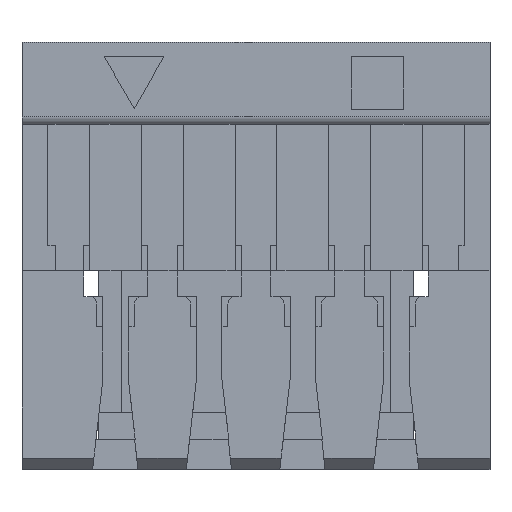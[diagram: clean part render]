
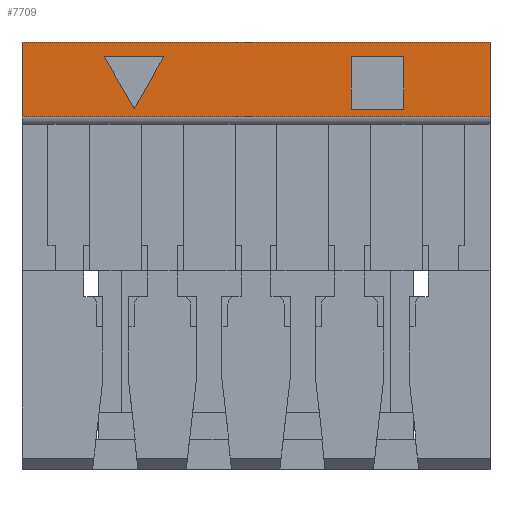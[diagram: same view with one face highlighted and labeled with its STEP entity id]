
A CAD part, top view. The second image highlights one B-rep face of the part: STEP entity #7709.
In plain terms, the highlighted planar face has unit normal (0, 0, 1).
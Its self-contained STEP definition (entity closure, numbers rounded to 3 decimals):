
#70 = CARTESIAN_POINT ( 'NONE',  ( -1.625, 4.816, 0. ) ) ;
#271 = EDGE_LOOP ( 'NONE', ( #9536, #5403, #9110, #5127 ) ) ;
#398 = CARTESIAN_POINT ( 'NONE',  ( -2.028, 5.509, 0. ) ) ;
#633 = CARTESIAN_POINT ( 'NONE',  ( -1.23, 5.509, 0. ) ) ;
#803 = DIRECTION ( 'NONE',  ( 0., -1., 0. ) ) ;
#849 = VECTOR ( 'NONE', #7405, 1000. ) ;
#1014 = VECTOR ( 'NONE', #5246, 1000. ) ;
#1043 = DIRECTION ( 'NONE',  ( 0.495, 0.869, 0. ) ) ;
#1299 = EDGE_CURVE ( 'NONE', #4513, #1701, #1771, .T. ) ;
#1489 = VERTEX_POINT ( 'NONE', #1885 ) ;
#1540 = VECTOR ( 'NONE', #5029, 1000. ) ;
#1589 = PLANE ( 'NONE',  #4313 ) ;
#1646 = CARTESIAN_POINT ( 'NONE',  ( 1.274, 5.509, 0. ) ) ;
#1701 = VERTEX_POINT ( 'NONE', #8836 ) ;
#1762 = CARTESIAN_POINT ( 'NONE',  ( 1.274, 4.808, 0. ) ) ;
#1771 = LINE ( 'NONE', #9083, #849 ) ;
#1820 = LINE ( 'NONE', #2022, #6025 ) ;
#1885 = CARTESIAN_POINT ( 'NONE',  ( 1.274, 4.808, 0. ) ) ;
#1935 = EDGE_LOOP ( 'NONE', ( #2816, #6906, #5539 ) ) ;
#2022 = CARTESIAN_POINT ( 'NONE',  ( -1.625, 4.816, 0. ) ) ;
#2053 = DIRECTION ( 'NONE',  ( 0.503, -0.865, 0. ) ) ;
#2208 = LINE ( 'NONE', #8207, #2704 ) ;
#2287 = CARTESIAN_POINT ( 'NONE',  ( 1.976, 4.808, 0. ) ) ;
#2316 = DIRECTION ( 'NONE',  ( 0., 0., 1. ) ) ;
#2460 = EDGE_CURVE ( 'NONE', #9403, #9806, #9800, .T. ) ;
#2478 = LINE ( 'NONE', #6320, #4469 ) ;
#2523 = DIRECTION ( 'NONE',  ( -1., 0., 0. ) ) ;
#2633 = CARTESIAN_POINT ( 'NONE',  ( 1.976, 5.509, 0. ) ) ;
#2704 = VECTOR ( 'NONE', #5729, 1000. ) ;
#2709 = EDGE_CURVE ( 'NONE', #8422, #1489, #3980, .T. ) ;
#2768 = CARTESIAN_POINT ( 'NONE',  ( 1.274, 5.509, 0. ) ) ;
#2804 = VERTEX_POINT ( 'NONE', #9304 ) ;
#2816 = ORIENTED_EDGE ( 'NONE', *, *, #8586, .F. ) ;
#3152 = FACE_BOUND ( 'NONE', #271, .T. ) ;
#3406 = DIRECTION ( 'NONE',  ( 1., 0., 0. ) ) ;
#3847 = VECTOR ( 'NONE', #803, 1000. ) ;
#3862 = DIRECTION ( 'NONE',  ( -1., 0., 0. ) ) ;
#3980 = LINE ( 'NONE', #1646, #3847 ) ;
#4289 = CARTESIAN_POINT ( 'NONE',  ( -2.028, 5.509, 0. ) ) ;
#4313 = AXIS2_PLACEMENT_3D ( 'NONE', #5781, #2316, #9041 ) ;
#4469 = VECTOR ( 'NONE', #3862, 1000. ) ;
#4488 = FACE_BOUND ( 'NONE', #1935, .T. ) ;
#4500 = VERTEX_POINT ( 'NONE', #70 ) ;
#4513 = VERTEX_POINT ( 'NONE', #2287 ) ;
#4706 = LINE ( 'NONE', #8505, #1014 ) ;
#4845 = ORIENTED_EDGE ( 'NONE', *, *, #5584, .F. ) ;
#5029 = DIRECTION ( 'NONE',  ( -1., 0., 0. ) ) ;
#5127 = ORIENTED_EDGE ( 'NONE', *, *, #2709, .F. ) ;
#5246 = DIRECTION ( 'NONE',  ( 0., -1., 0. ) ) ;
#5299 = VECTOR ( 'NONE', #2053, 1000. ) ;
#5403 = ORIENTED_EDGE ( 'NONE', *, *, #1299, .F. ) ;
#5519 = DIRECTION ( 'NONE',  ( 0., -1., 0. ) ) ;
#5539 = ORIENTED_EDGE ( 'NONE', *, *, #7295, .F. ) ;
#5584 = EDGE_CURVE ( 'NONE', #9403, #6224, #2208, .T. ) ;
#5628 = VERTEX_POINT ( 'NONE', #4289 ) ;
#5729 = DIRECTION ( 'NONE',  ( 1., 0., 0. ) ) ;
#5781 = CARTESIAN_POINT ( 'NONE',  ( -3.125, 5.7, 0. ) ) ;
#5909 = CARTESIAN_POINT ( 'NONE',  ( -3.125, 5.7, 0. ) ) ;
#5927 = EDGE_CURVE ( 'NONE', #6224, #2804, #4706, .T. ) ;
#6025 = VECTOR ( 'NONE', #1043, 1000. ) ;
#6079 = EDGE_CURVE ( 'NONE', #1701, #8422, #8312, .T. ) ;
#6224 = VERTEX_POINT ( 'NONE', #7749 ) ;
#6320 = CARTESIAN_POINT ( 'NONE',  ( -1.23, 5.509, 0. ) ) ;
#6473 = VECTOR ( 'NONE', #5519, 1000. ) ;
#6544 = CARTESIAN_POINT ( 'NONE',  ( -3.125, 4.706, 0. ) ) ;
#6906 = ORIENTED_EDGE ( 'NONE', *, *, #10167, .F. ) ;
#7033 = ORIENTED_EDGE ( 'NONE', *, *, #5927, .F. ) ;
#7207 = ORIENTED_EDGE ( 'NONE', *, *, #9850, .F. ) ;
#7295 = EDGE_CURVE ( 'NONE', #5628, #4500, #7483, .T. ) ;
#7405 = DIRECTION ( 'NONE',  ( 0., 1., 0. ) ) ;
#7483 = LINE ( 'NONE', #398, #5299 ) ;
#7709 = ADVANCED_FACE ( 'NONE', ( #4488, #3152, #10040 ), #1589, .T. ) ;
#7749 = CARTESIAN_POINT ( 'NONE',  ( 3.125, 5.7, 0. ) ) ;
#7918 = CARTESIAN_POINT ( 'NONE',  ( -3.125, 5.7, 0. ) ) ;
#8207 = CARTESIAN_POINT ( 'NONE',  ( -3.125, 5.7, 0. ) ) ;
#8312 = LINE ( 'NONE', #2633, #9719 ) ;
#8324 = LINE ( 'NONE', #8984, #1540 ) ;
#8328 = LINE ( 'NONE', #1762, #8967 ) ;
#8422 = VERTEX_POINT ( 'NONE', #2768 ) ;
#8505 = CARTESIAN_POINT ( 'NONE',  ( 3.125, 5.7, 0. ) ) ;
#8586 = EDGE_CURVE ( 'NONE', #8705, #5628, #2478, .T. ) ;
#8705 = VERTEX_POINT ( 'NONE', #633 ) ;
#8836 = CARTESIAN_POINT ( 'NONE',  ( 1.976, 5.509, 0. ) ) ;
#8967 = VECTOR ( 'NONE', #3406, 1000. ) ;
#8984 = CARTESIAN_POINT ( 'NONE',  ( 3.125, 4.706, 0. ) ) ;
#9041 = DIRECTION ( 'NONE',  ( 1., 0., 0. ) ) ;
#9083 = CARTESIAN_POINT ( 'NONE',  ( 1.976, 4.808, 0. ) ) ;
#9110 = ORIENTED_EDGE ( 'NONE', *, *, #10553, .F. ) ;
#9304 = CARTESIAN_POINT ( 'NONE',  ( 3.125, 4.706, 0. ) ) ;
#9403 = VERTEX_POINT ( 'NONE', #5909 ) ;
#9465 = ORIENTED_EDGE ( 'NONE', *, *, #2460, .T. ) ;
#9536 = ORIENTED_EDGE ( 'NONE', *, *, #6079, .F. ) ;
#9692 = EDGE_LOOP ( 'NONE', ( #7033, #4845, #9465, #7207 ) ) ;
#9719 = VECTOR ( 'NONE', #2523, 1000. ) ;
#9800 = LINE ( 'NONE', #7918, #6473 ) ;
#9806 = VERTEX_POINT ( 'NONE', #6544 ) ;
#9850 = EDGE_CURVE ( 'NONE', #2804, #9806, #8324, .T. ) ;
#10040 = FACE_OUTER_BOUND ( 'NONE', #9692, .T. ) ;
#10167 = EDGE_CURVE ( 'NONE', #4500, #8705, #1820, .T. ) ;
#10553 = EDGE_CURVE ( 'NONE', #1489, #4513, #8328, .T. ) ;
